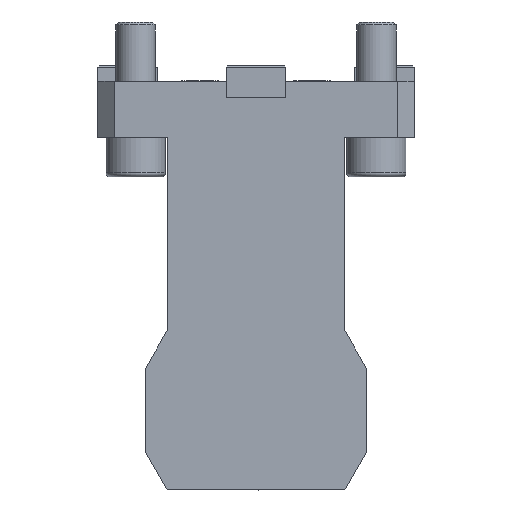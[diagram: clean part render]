
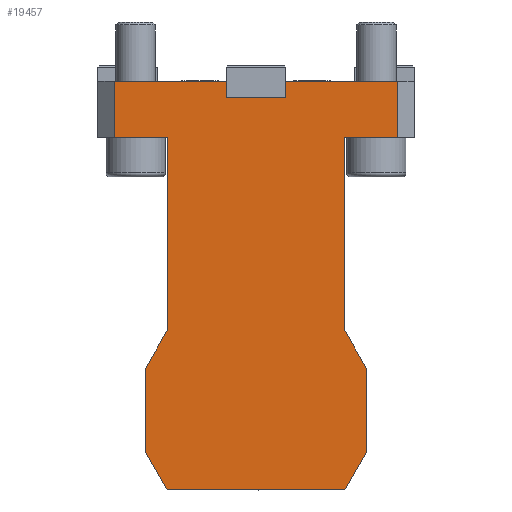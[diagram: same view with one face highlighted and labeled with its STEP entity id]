
A CAD part, left-side view. The second image highlights one B-rep face of the part: STEP entity #19457.
In plain terms, the highlighted planar face has unit normal (-1, 0, 0) as drawn and (1, 0, 0) by its records, which use the part's own axes.
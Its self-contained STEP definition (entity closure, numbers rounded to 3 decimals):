
#9189=ORIENTED_EDGE('',*,*,#12141,.F.);
#9190=ORIENTED_EDGE('',*,*,#12142,.F.);
#9191=ORIENTED_EDGE('',*,*,#12143,.F.);
#9192=ORIENTED_EDGE('',*,*,#12144,.T.);
#9193=ORIENTED_EDGE('',*,*,#12145,.T.);
#9194=ORIENTED_EDGE('',*,*,#12146,.F.);
#9195=ORIENTED_EDGE('',*,*,#12147,.F.);
#9196=ORIENTED_EDGE('',*,*,#12148,.F.);
#9197=ORIENTED_EDGE('',*,*,#12149,.F.);
#9198=ORIENTED_EDGE('',*,*,#12150,.F.);
#9199=ORIENTED_EDGE('',*,*,#12151,.T.);
#9200=ORIENTED_EDGE('',*,*,#12152,.T.);
#9201=ORIENTED_EDGE('',*,*,#12153,.T.);
#9202=ORIENTED_EDGE('',*,*,#12154,.F.);
#9203=ORIENTED_EDGE('',*,*,#12155,.F.);
#9204=ORIENTED_EDGE('',*,*,#12156,.F.);
#9205=ORIENTED_EDGE('',*,*,#12135,.F.);
#9206=ORIENTED_EDGE('',*,*,#12157,.T.);
#9207=ORIENTED_EDGE('',*,*,#12158,.T.);
#9208=ORIENTED_EDGE('',*,*,#12159,.T.);
#10723=VECTOR('',#13975,1.);
#10729=VECTOR('',#13983,1.);
#10730=VECTOR('',#13984,1.);
#10731=VECTOR('',#13985,1.);
#10732=VECTOR('',#13986,1.);
#10733=VECTOR('',#13987,1.);
#10734=VECTOR('',#13988,1.);
#10735=VECTOR('',#13989,1.);
#10736=VECTOR('',#13990,1.);
#10737=VECTOR('',#13991,1.);
#10738=VECTOR('',#13992,1.);
#10739=VECTOR('',#13993,1.);
#10740=VECTOR('',#13994,1.);
#10741=VECTOR('',#13995,1.);
#10742=VECTOR('',#13996,1.);
#10743=VECTOR('',#13997,1.);
#10744=VECTOR('',#13998,1.);
#10745=VECTOR('',#13999,1.);
#10746=VECTOR('',#14000,1.);
#10747=VECTOR('',#14001,1.);
#11155=LINE('',#16084,#10723);
#11161=LINE('',#16097,#10729);
#11162=LINE('',#16099,#10730);
#11163=LINE('',#16101,#10731);
#11164=LINE('',#16103,#10732);
#11165=LINE('',#16105,#10733);
#11166=LINE('',#16107,#10734);
#11167=LINE('',#16109,#10735);
#11168=LINE('',#16111,#10736);
#11169=LINE('',#16113,#10737);
#11170=LINE('',#16115,#10738);
#11171=LINE('',#16117,#10739);
#11172=LINE('',#16119,#10740);
#11173=LINE('',#16121,#10741);
#11174=LINE('',#16123,#10742);
#11175=LINE('',#16125,#10743);
#11176=LINE('',#16126,#10744);
#11177=LINE('',#16128,#10745);
#11178=LINE('',#16130,#10746);
#11179=LINE('',#16131,#10747);
#11555=VERTEX_POINT('',#16082);
#11556=VERTEX_POINT('',#16083);
#11561=VERTEX_POINT('',#16095);
#11562=VERTEX_POINT('',#16096);
#11563=VERTEX_POINT('',#16098);
#11564=VERTEX_POINT('',#16100);
#11565=VERTEX_POINT('',#16102);
#11566=VERTEX_POINT('',#16104);
#11567=VERTEX_POINT('',#16106);
#11568=VERTEX_POINT('',#16108);
#11569=VERTEX_POINT('',#16110);
#11570=VERTEX_POINT('',#16112);
#11571=VERTEX_POINT('',#16114);
#11572=VERTEX_POINT('',#16116);
#11573=VERTEX_POINT('',#16118);
#11574=VERTEX_POINT('',#16120);
#11575=VERTEX_POINT('',#16122);
#11576=VERTEX_POINT('',#16124);
#11577=VERTEX_POINT('',#16127);
#11578=VERTEX_POINT('',#16129);
#12135=EDGE_CURVE('',#11555,#11556,#11155,.T.);
#12141=EDGE_CURVE('',#11561,#11562,#11161,.T.);
#12142=EDGE_CURVE('',#11563,#11561,#11162,.T.);
#12143=EDGE_CURVE('',#11564,#11563,#11163,.T.);
#12144=EDGE_CURVE('',#11564,#11565,#11164,.T.);
#12145=EDGE_CURVE('',#11565,#11566,#11165,.T.);
#12146=EDGE_CURVE('',#11567,#11566,#11166,.T.);
#12147=EDGE_CURVE('',#11568,#11567,#11167,.T.);
#12148=EDGE_CURVE('',#11569,#11568,#11168,.T.);
#12149=EDGE_CURVE('',#11570,#11569,#11169,.T.);
#12150=EDGE_CURVE('',#11571,#11570,#11170,.T.);
#12151=EDGE_CURVE('',#11571,#11572,#11171,.T.);
#12152=EDGE_CURVE('',#11572,#11573,#11172,.T.);
#12153=EDGE_CURVE('',#11573,#11574,#11173,.T.);
#12154=EDGE_CURVE('',#11575,#11574,#11174,.T.);
#12155=EDGE_CURVE('',#11576,#11575,#11175,.T.);
#12156=EDGE_CURVE('',#11556,#11576,#11176,.T.);
#12157=EDGE_CURVE('',#11555,#11577,#11177,.T.);
#12158=EDGE_CURVE('',#11577,#11578,#11178,.T.);
#12159=EDGE_CURVE('',#11578,#11562,#11179,.T.);
#12906=EDGE_LOOP('',(#9189,#9190,#9191,#9192,#9193,#9194,#9195,#9196,#9197,
#9198,#9199,#9200,#9201,#9202,#9203,#9204,#9205,#9206,#9207,#9208));
#13368=FACE_BOUND('',#12906,.T.);
#13975=DIRECTION('',(0.,0.,16.));
#13981=DIRECTION('',(1.,0.,0.));
#13982=DIRECTION('',(0.,-1.,0.));
#13983=DIRECTION('',(0.,4.5,0.));
#13984=DIRECTION('',(0.,0.,-18.));
#13985=DIRECTION('',(0.,-4.5,0.));
#13986=DIRECTION('',(0.,0.5,0.289));
#13987=DIRECTION('',(0.,0.,33.711));
#13988=DIRECTION('',(0.,17.,0.));
#13989=DIRECTION('',(0.,0.,16.));
#13990=DIRECTION('',(0.,58.742,0.));
#13991=DIRECTION('',(0.,11.258,-6.5));
#13992=DIRECTION('',(0.,25.741,0.));
#13993=DIRECTION('',(0.,-11.258,-6.5));
#13994=DIRECTION('',(0.,0.,-54.));
#13995=DIRECTION('',(0.,11.258,-6.5));
#13996=DIRECTION('',(0.,-25.742,0.));
#13997=DIRECTION('',(0.,-11.258,-6.5));
#13998=DIRECTION('',(0.,-58.742,0.));
#13999=DIRECTION('',(0.,17.,0.));
#14000=DIRECTION('',(0.,0.,33.711));
#14001=DIRECTION('',(0.,-0.5,0.289));
#16082=CARTESIAN_POINT('',(48.,-16.,-43.));
#16083=CARTESIAN_POINT('',(48.,-16.,-27.));
#16084=CARTESIAN_POINT('',(48.,-16.,-43.));
#16094=CARTESIAN_POINT('',(48.,-4.,-9.));
#16095=CARTESIAN_POINT('',(48.,-4.,-9.));
#16096=CARTESIAN_POINT('',(48.,0.5,-9.));
#16097=CARTESIAN_POINT('',(48.,-4.,-9.));
#16098=CARTESIAN_POINT('',(48.,-4.,9.));
#16099=CARTESIAN_POINT('',(48.,-4.,9.));
#16100=CARTESIAN_POINT('',(48.,0.5,9.));
#16101=CARTESIAN_POINT('',(48.,0.5,9.));
#16102=CARTESIAN_POINT('',(48.,1.,9.289));
#16103=CARTESIAN_POINT('',(48.,0.5,9.));
#16104=CARTESIAN_POINT('',(48.,1.,43.));
#16105=CARTESIAN_POINT('',(48.,1.,9.289));
#16106=CARTESIAN_POINT('',(48.,-16.,43.));
#16107=CARTESIAN_POINT('',(48.,-16.,43.));
#16108=CARTESIAN_POINT('',(48.,-16.,27.));
#16109=CARTESIAN_POINT('',(48.,-16.,27.));
#16110=CARTESIAN_POINT('',(48.,-74.742,27.));
#16111=CARTESIAN_POINT('',(48.,-74.742,27.));
#16112=CARTESIAN_POINT('',(48.,-86.,33.5));
#16113=CARTESIAN_POINT('',(48.,-86.,33.5));
#16114=CARTESIAN_POINT('',(48.,-111.741,33.5));
#16115=CARTESIAN_POINT('',(48.,-111.741,33.5));
#16116=CARTESIAN_POINT('',(48.,-123.,27.));
#16117=CARTESIAN_POINT('',(48.,-111.741,33.5));
#16118=CARTESIAN_POINT('',(48.,-123.,-27.));
#16119=CARTESIAN_POINT('',(48.,-123.,27.));
#16120=CARTESIAN_POINT('',(48.,-111.742,-33.5));
#16121=CARTESIAN_POINT('',(48.,-123.,-27.));
#16122=CARTESIAN_POINT('',(48.,-86.,-33.5));
#16123=CARTESIAN_POINT('',(48.,-86.,-33.5));
#16124=CARTESIAN_POINT('',(48.,-74.742,-27.));
#16125=CARTESIAN_POINT('',(48.,-74.742,-27.));
#16126=CARTESIAN_POINT('',(48.,-16.,-27.));
#16127=CARTESIAN_POINT('',(48.,1.,-43.));
#16128=CARTESIAN_POINT('',(48.,-16.,-43.));
#16129=CARTESIAN_POINT('',(48.,1.,-9.289));
#16130=CARTESIAN_POINT('',(48.,1.,-43.));
#16131=CARTESIAN_POINT('',(48.,1.,-9.289));
#18393=AXIS2_PLACEMENT_3D('',#16094,#13981,#13982);
#19222=PLANE('',#18393);
#19457=ADVANCED_FACE('',(#13368),#19222,.T.);
